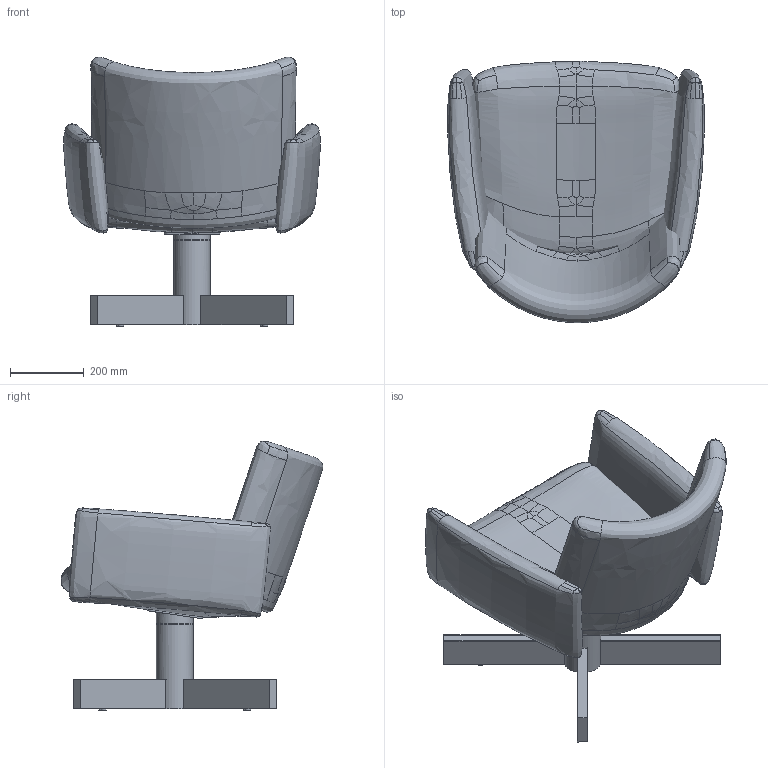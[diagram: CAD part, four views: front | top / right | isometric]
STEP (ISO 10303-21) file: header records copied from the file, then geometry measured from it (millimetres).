
FILE_DESCRIPTION(/* description */ (''),/* implementation_level */ '2;1');
FILE_NAME(/* name */ 'AvantLounge Updated File 10mm Shorter 23.03.2026.step',/* time_stamp */ '2026-03-23T15:40:46+13:00',/* author */ (''),/* organization */ (''),/* preprocessor_version */ 'ST-DEVELOPER v20.1',/* originating_system */ 'Autodesk Translation Framework v14.24.0.0',/* authorisation */ '');
FILE_SCHEMA (('AUTOMOTIVE_DESIGN { 1 0 10303 214 3 1 1 }'));
Length unit declared in the file: millimetre
Products named in the file (3): Note Lounge Wooden Base (v13~recovered); NOTE_Resident Lounge Chair_Wood; Note seat carrier
Assembly tree (2 placements, depth 2):
  Note Lounge Wooden Base (v13~recovered)
    NOTE_Resident Lounge Chair_Wood
    Note seat carrier
Bounding box: 695.14 x 708.75 x 729.44 mm (x, y, z)
Volume: 64618470.3 mm3; surface area: 2463825.7 mm2
Topology: 13 solids, 13 shells, 287 faces, 779 edges, 520 vertices
Faces by surface type: bspline 178, plane 77, cylinder 28, torus 4
Full cylindrical faces by diameter (mm): 2 x4, 7 x4, 13 x2, 15 x4, 20 x1, 51 x1, 53 x1, 60 x1, 100 x2
Entity records: 28496 total; most frequent: CARTESIAN_POINT 22568, ORIENTED_EDGE 1558, EDGE_CURVE 779, DIRECTION 591, VERTEX_POINT 520, B_SPLINE_CURVE_WITH_KNOTS 509, EDGE_LOOP 305, FACE_OUTER_BOUND 287
